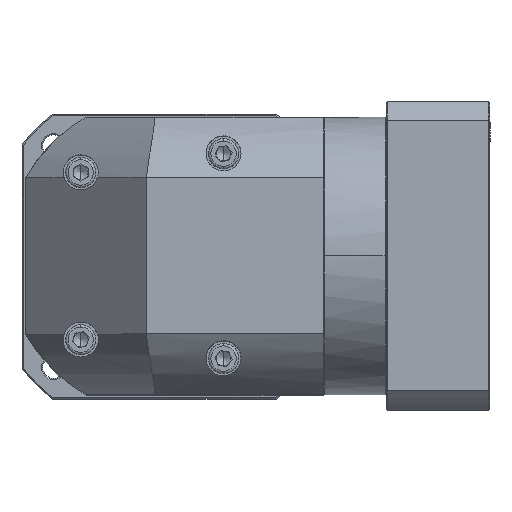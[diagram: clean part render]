
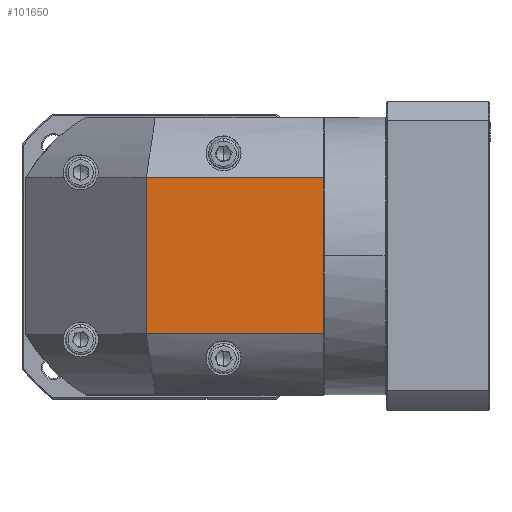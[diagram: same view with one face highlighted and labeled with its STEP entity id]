
A CAD part, top view. The second image highlights one B-rep face of the part: STEP entity #101650.
In plain terms, the highlighted planar face has unit normal (0, 0, 1).
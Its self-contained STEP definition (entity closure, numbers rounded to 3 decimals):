
#373 = CARTESIAN_POINT ( 'NONE',  ( 20.413, 26.233, 54.873 ) ) ;
#3886 = CARTESIAN_POINT ( 'NONE',  ( 93.813, 91.033, 54.873 ) ) ;
#7222 = EDGE_CURVE ( 'NONE', #77692, #30761, #75104, .T. ) ;
#19480 = DIRECTION ( 'NONE',  ( 0., 0., -1. ) ) ;
#23345 = CARTESIAN_POINT ( 'NONE',  ( -29.587, 26.233, 54.873 ) ) ;
#25276 = EDGE_LOOP ( 'NONE', ( #42478, #95072, #48284, #59558 ) ) ;
#29829 = DIRECTION ( 'NONE',  ( 0., -1., 0. ) ) ;
#30607 = VECTOR ( 'NONE', #98905, 1000. ) ;
#30761 = VERTEX_POINT ( 'NONE', #3886 ) ;
#31290 = CARTESIAN_POINT ( 'NONE',  ( 93.813, 26.233, 54.873 ) ) ;
#37099 = LINE ( 'NONE', #37318, #30607 ) ;
#37318 = CARTESIAN_POINT ( 'NONE',  ( 20.413, 116.133, 54.873 ) ) ;
#39746 = LINE ( 'NONE', #23345, #99792 ) ;
#40713 = PLANE ( 'NONE',  #98093 ) ;
#42478 = ORIENTED_EDGE ( 'NONE', *, *, #7222, .F. ) ;
#44149 = DIRECTION ( 'NONE',  ( -1., 0., 0. ) ) ;
#48284 = ORIENTED_EDGE ( 'NONE', *, *, #108081, .F. ) ;
#50344 = CARTESIAN_POINT ( 'NONE',  ( 20.413, 91.033, 54.873 ) ) ;
#51043 = CARTESIAN_POINT ( 'NONE',  ( 27.913, 58.633, 54.873 ) ) ;
#56598 = VERTEX_POINT ( 'NONE', #31290 ) ;
#59558 = ORIENTED_EDGE ( 'NONE', *, *, #84536, .F. ) ;
#60364 = EDGE_CURVE ( 'NONE', #80549, #77692, #37099, .T. ) ;
#62095 = VECTOR ( 'NONE', #76662, 1000. ) ;
#65320 = CARTESIAN_POINT ( 'NONE',  ( -29.587, 91.033, 54.873 ) ) ;
#75104 = LINE ( 'NONE', #65320, #62095 ) ;
#76662 = DIRECTION ( 'NONE',  ( 1., 0., 0. ) ) ;
#77333 = LINE ( 'NONE', #114197, #126056 ) ;
#77692 = VERTEX_POINT ( 'NONE', #50344 ) ;
#80549 = VERTEX_POINT ( 'NONE', #373 ) ;
#82436 = DIRECTION ( 'NONE',  ( 0., -1., 0. ) ) ;
#84536 = EDGE_CURVE ( 'NONE', #30761, #56598, #77333, .T. ) ;
#95072 = ORIENTED_EDGE ( 'NONE', *, *, #60364, .F. ) ;
#98093 = AXIS2_PLACEMENT_3D ( 'NONE', #51043, #19480, #29829 ) ;
#98905 = DIRECTION ( 'NONE',  ( 0., 1., 0. ) ) ;
#99792 = VECTOR ( 'NONE', #44149, 1000. ) ;
#101650 = ADVANCED_FACE ( 'NONE', ( #118529 ), #40713, .F. ) ;
#108081 = EDGE_CURVE ( 'NONE', #56598, #80549, #39746, .T. ) ;
#114197 = CARTESIAN_POINT ( 'NONE',  ( 93.813, 116.133, 54.873 ) ) ;
#118529 = FACE_OUTER_BOUND ( 'NONE', #25276, .T. ) ;
#126056 = VECTOR ( 'NONE', #82436, 1000. ) ;
